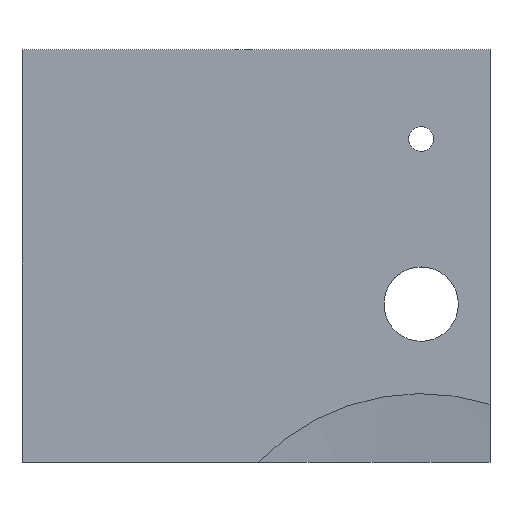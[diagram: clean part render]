
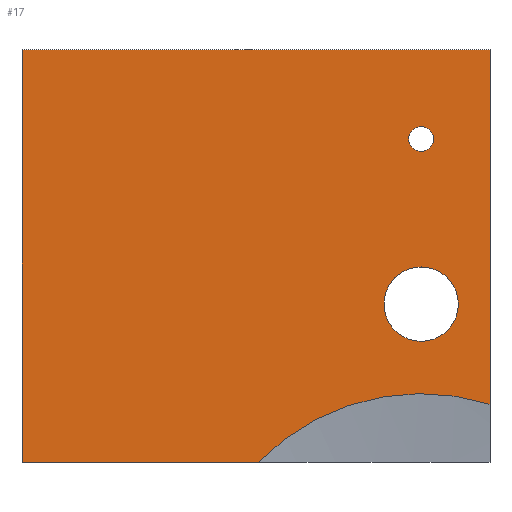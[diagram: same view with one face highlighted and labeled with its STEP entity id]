
A CAD part, top view. The second image highlights one B-rep face of the part: STEP entity #17.
In plain terms, the highlighted planar face has unit normal (0, 0, 1).
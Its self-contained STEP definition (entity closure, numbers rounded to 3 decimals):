
#17 = ADVANCED_FACE('',(#18,#158,#193),#33,.T.);
#18 = FACE_BOUND('',#19,.T.);
#19 = EDGE_LOOP('',(#20,#56,#82,#108,#134));
#20 = ORIENTED_EDGE('',*,*,#21,.F.);
#21 = EDGE_CURVE('',#22,#24,#26,.T.);
#22 = VERTEX_POINT('',#23);
#23 = CARTESIAN_POINT('',(5.,-27.276,13.5));
#24 = VERTEX_POINT('',#25);
#25 = CARTESIAN_POINT('',(-11.832,-31.5,13.5));
#26 = SURFACE_CURVE('',#27,(#32,#44),.PCURVE_S1.);
#27 = CIRCLE('',#28,16.5);
#28 = AXIS2_PLACEMENT_3D('',#29,#30,#31);
#29 = CARTESIAN_POINT('',(0.,-43.,13.5));
#30 = DIRECTION('',(0.,0.,1.));
#31 = DIRECTION('',(1.,0.,-0.));
#32 = PCURVE('',#33,#38);
#33 = PLANE('',#34);
#34 = AXIS2_PLACEMENT_3D('',#35,#36,#37);
#35 = CARTESIAN_POINT('',(-44.,-68.,13.5));
#36 = DIRECTION('',(0.,0.,1.));
#37 = DIRECTION('',(1.,0.,-0.));
#38 = DEFINITIONAL_REPRESENTATION('',(#39),#43);
#39 = CIRCLE('',#40,16.5);
#40 = AXIS2_PLACEMENT_2D('',#41,#42);
#41 = CARTESIAN_POINT('',(44.,25.));
#42 = DIRECTION('',(1.,0.));
#43 = ( GEOMETRIC_REPRESENTATION_CONTEXT(2) 
PARAMETRIC_REPRESENTATION_CONTEXT() REPRESENTATION_CONTEXT('2D SPACE',''
  ) );
#44 = PCURVE('',#45,#50);
#45 = SPHERICAL_SURFACE('',#46,124.3);
#46 = AXIS2_PLACEMENT_3D('',#47,#48,#49);
#47 = CARTESIAN_POINT('',(0.,-43.,136.7));
#48 = DIRECTION('',(0.,0.,1.));
#49 = DIRECTION('',(1.,0.,-0.));
#50 = DEFINITIONAL_REPRESENTATION('',(#51),#55);
#51 = LINE('',#52,#53);
#52 = CARTESIAN_POINT('',(0.,-1.438));
#53 = VECTOR('',#54,1.);
#54 = DIRECTION('',(1.,0.));
#55 = ( GEOMETRIC_REPRESENTATION_CONTEXT(2) 
PARAMETRIC_REPRESENTATION_CONTEXT() REPRESENTATION_CONTEXT('2D SPACE',''
  ) );
#56 = ORIENTED_EDGE('',*,*,#57,.T.);
#57 = EDGE_CURVE('',#22,#58,#60,.T.);
#58 = VERTEX_POINT('',#59);
#59 = CARTESIAN_POINT('',(5.,-1.5,13.5));
#60 = SURFACE_CURVE('',#61,(#65,#71),.PCURVE_S1.);
#61 = LINE('',#62,#63);
#62 = CARTESIAN_POINT('',(5.,-49.75,13.5));
#63 = VECTOR('',#64,1.);
#64 = DIRECTION('',(0.,1.,0.));
#65 = PCURVE('',#33,#66);
#66 = DEFINITIONAL_REPRESENTATION('',(#67),#70);
#67 = B_SPLINE_CURVE_WITH_KNOTS('',1,(#68,#69),.UNSPECIFIED.,.F.,.F.,(2,
    2),(18.25,48.25),.PIECEWISE_BEZIER_KNOTS.);
#68 = CARTESIAN_POINT('',(49.,36.5));
#69 = CARTESIAN_POINT('',(49.,66.5));
#70 = ( GEOMETRIC_REPRESENTATION_CONTEXT(2) 
PARAMETRIC_REPRESENTATION_CONTEXT() REPRESENTATION_CONTEXT('2D SPACE',''
  ) );
#71 = PCURVE('',#72,#77);
#72 = PLANE('',#73);
#73 = AXIS2_PLACEMENT_3D('',#74,#75,#76);
#74 = CARTESIAN_POINT('',(5.,-31.5,10.));
#75 = DIRECTION('',(1.,0.,0.));
#76 = DIRECTION('',(0.,0.,1.));
#77 = DEFINITIONAL_REPRESENTATION('',(#78),#81);
#78 = B_SPLINE_CURVE_WITH_KNOTS('',1,(#79,#80),.UNSPECIFIED.,.F.,.F.,(2,
    2),(18.25,48.25),.PIECEWISE_BEZIER_KNOTS.);
#79 = CARTESIAN_POINT('',(3.5,0.));
#80 = CARTESIAN_POINT('',(3.5,-30.));
#81 = ( GEOMETRIC_REPRESENTATION_CONTEXT(2) 
PARAMETRIC_REPRESENTATION_CONTEXT() REPRESENTATION_CONTEXT('2D SPACE',''
  ) );
#82 = ORIENTED_EDGE('',*,*,#83,.T.);
#83 = EDGE_CURVE('',#58,#84,#86,.T.);
#84 = VERTEX_POINT('',#85);
#85 = CARTESIAN_POINT('',(-29.,-1.5,13.5));
#86 = SURFACE_CURVE('',#87,(#91,#97),.PCURVE_S1.);
#87 = LINE('',#88,#89);
#88 = CARTESIAN_POINT('',(-36.5,-1.5,13.5));
#89 = VECTOR('',#90,1.);
#90 = DIRECTION('',(-1.,0.,0.));
#91 = PCURVE('',#33,#92);
#92 = DEFINITIONAL_REPRESENTATION('',(#93),#96);
#93 = B_SPLINE_CURVE_WITH_KNOTS('',1,(#94,#95),.UNSPECIFIED.,.F.,.F.,(2,
    2),(-41.5,-7.5),.PIECEWISE_BEZIER_KNOTS.);
#94 = CARTESIAN_POINT('',(49.,66.5));
#95 = CARTESIAN_POINT('',(15.,66.5));
#96 = ( GEOMETRIC_REPRESENTATION_CONTEXT(2) 
PARAMETRIC_REPRESENTATION_CONTEXT() REPRESENTATION_CONTEXT('2D SPACE',''
  ) );
#97 = PCURVE('',#98,#103);
#98 = PLANE('',#99);
#99 = AXIS2_PLACEMENT_3D('',#100,#101,#102);
#100 = CARTESIAN_POINT('',(-29.,-1.5,10.));
#101 = DIRECTION('',(0.,1.,0.));
#102 = DIRECTION('',(0.,0.,1.));
#103 = DEFINITIONAL_REPRESENTATION('',(#104),#107);
#104 = B_SPLINE_CURVE_WITH_KNOTS('',1,(#105,#106),.UNSPECIFIED.,.F.,.F.,
  (2,2),(-41.5,-7.5),.PIECEWISE_BEZIER_KNOTS.);
#105 = CARTESIAN_POINT('',(3.5,34.));
#106 = CARTESIAN_POINT('',(3.5,0.));
#107 = ( GEOMETRIC_REPRESENTATION_CONTEXT(2) 
PARAMETRIC_REPRESENTATION_CONTEXT() REPRESENTATION_CONTEXT('2D SPACE',''
  ) );
#108 = ORIENTED_EDGE('',*,*,#109,.F.);
#109 = EDGE_CURVE('',#110,#84,#112,.T.);
#110 = VERTEX_POINT('',#111);
#111 = CARTESIAN_POINT('',(-29.,-31.5,13.5));
#112 = SURFACE_CURVE('',#113,(#117,#123),.PCURVE_S1.);
#113 = LINE('',#114,#115);
#114 = CARTESIAN_POINT('',(-29.,-49.75,13.5));
#115 = VECTOR('',#116,1.);
#116 = DIRECTION('',(0.,1.,0.));
#117 = PCURVE('',#33,#118);
#118 = DEFINITIONAL_REPRESENTATION('',(#119),#122);
#119 = B_SPLINE_CURVE_WITH_KNOTS('',1,(#120,#121),.UNSPECIFIED.,.F.,.F.,
  (2,2),(18.25,48.25),.PIECEWISE_BEZIER_KNOTS.);
#120 = CARTESIAN_POINT('',(15.,36.5));
#121 = CARTESIAN_POINT('',(15.,66.5));
#122 = ( GEOMETRIC_REPRESENTATION_CONTEXT(2) 
PARAMETRIC_REPRESENTATION_CONTEXT() REPRESENTATION_CONTEXT('2D SPACE',''
  ) );
#123 = PCURVE('',#124,#129);
#124 = PLANE('',#125);
#125 = AXIS2_PLACEMENT_3D('',#126,#127,#128);
#126 = CARTESIAN_POINT('',(-29.,-31.5,10.));
#127 = DIRECTION('',(1.,0.,0.));
#128 = DIRECTION('',(0.,0.,1.));
#129 = DEFINITIONAL_REPRESENTATION('',(#130),#133);
#130 = B_SPLINE_CURVE_WITH_KNOTS('',1,(#131,#132),.UNSPECIFIED.,.F.,.F.,
  (2,2),(18.25,48.25),.PIECEWISE_BEZIER_KNOTS.);
#131 = CARTESIAN_POINT('',(3.5,0.));
#132 = CARTESIAN_POINT('',(3.5,-30.));
#133 = ( GEOMETRIC_REPRESENTATION_CONTEXT(2) 
PARAMETRIC_REPRESENTATION_CONTEXT() REPRESENTATION_CONTEXT('2D SPACE',''
  ) );
#134 = ORIENTED_EDGE('',*,*,#135,.F.);
#135 = EDGE_CURVE('',#24,#110,#136,.T.);
#136 = SURFACE_CURVE('',#137,(#141,#147),.PCURVE_S1.);
#137 = LINE('',#138,#139);
#138 = CARTESIAN_POINT('',(-36.5,-31.5,13.5));
#139 = VECTOR('',#140,1.);
#140 = DIRECTION('',(-1.,0.,0.));
#141 = PCURVE('',#33,#142);
#142 = DEFINITIONAL_REPRESENTATION('',(#143),#146);
#143 = B_SPLINE_CURVE_WITH_KNOTS('',1,(#144,#145),.UNSPECIFIED.,.F.,.F.,
  (2,2),(-41.5,-7.5),.PIECEWISE_BEZIER_KNOTS.);
#144 = CARTESIAN_POINT('',(49.,36.5));
#145 = CARTESIAN_POINT('',(15.,36.5));
#146 = ( GEOMETRIC_REPRESENTATION_CONTEXT(2) 
PARAMETRIC_REPRESENTATION_CONTEXT() REPRESENTATION_CONTEXT('2D SPACE',''
  ) );
#147 = PCURVE('',#148,#153);
#148 = PLANE('',#149);
#149 = AXIS2_PLACEMENT_3D('',#150,#151,#152);
#150 = CARTESIAN_POINT('',(-29.,-31.5,10.));
#151 = DIRECTION('',(0.,1.,0.));
#152 = DIRECTION('',(0.,0.,1.));
#153 = DEFINITIONAL_REPRESENTATION('',(#154),#157);
#154 = B_SPLINE_CURVE_WITH_KNOTS('',1,(#155,#156),.UNSPECIFIED.,.F.,.F.,
  (2,2),(-41.5,-7.5),.PIECEWISE_BEZIER_KNOTS.);
#155 = CARTESIAN_POINT('',(3.5,34.));
#156 = CARTESIAN_POINT('',(3.5,0.));
#157 = ( GEOMETRIC_REPRESENTATION_CONTEXT(2) 
PARAMETRIC_REPRESENTATION_CONTEXT() REPRESENTATION_CONTEXT('2D SPACE',''
  ) );
#158 = FACE_BOUND('',#159,.T.);
#159 = EDGE_LOOP('',(#160));
#160 = ORIENTED_EDGE('',*,*,#161,.T.);
#161 = EDGE_CURVE('',#162,#162,#164,.T.);
#162 = VERTEX_POINT('',#163);
#163 = CARTESIAN_POINT('',(2.7,-20.,13.5));
#164 = SURFACE_CURVE('',#165,(#170,#181),.PCURVE_S1.);
#165 = CIRCLE('',#166,2.7);
#166 = AXIS2_PLACEMENT_3D('',#167,#168,#169);
#167 = CARTESIAN_POINT('',(0.,-20.,13.5));
#168 = DIRECTION('',(0.,0.,-1.));
#169 = DIRECTION('',(1.,0.,0.));
#170 = PCURVE('',#33,#171);
#171 = DEFINITIONAL_REPRESENTATION('',(#172),#180);
#172 = ( BOUNDED_CURVE() B_SPLINE_CURVE(2,(#173,#174,#175,#176,#177,#178
,#179),.UNSPECIFIED.,.T.,.F.) B_SPLINE_CURVE_WITH_KNOTS((1,2,2,2,2,1),(
    -2.094,0.,2.094,4.189,6.283,
8.378),.UNSPECIFIED.) CURVE() GEOMETRIC_REPRESENTATION_ITEM() 
RATIONAL_B_SPLINE_CURVE((1.,0.5,1.,0.5,1.,0.5,1.)) REPRESENTATION_ITEM(
  '') );
#173 = CARTESIAN_POINT('',(46.7,48.));
#174 = CARTESIAN_POINT('',(46.7,43.323));
#175 = CARTESIAN_POINT('',(42.65,45.662));
#176 = CARTESIAN_POINT('',(38.6,48.));
#177 = CARTESIAN_POINT('',(42.65,50.338));
#178 = CARTESIAN_POINT('',(46.7,52.677));
#179 = CARTESIAN_POINT('',(46.7,48.));
#180 = ( GEOMETRIC_REPRESENTATION_CONTEXT(2) 
PARAMETRIC_REPRESENTATION_CONTEXT() REPRESENTATION_CONTEXT('2D SPACE',''
  ) );
#181 = PCURVE('',#182,#187);
#182 = CYLINDRICAL_SURFACE('',#183,2.7);
#183 = AXIS2_PLACEMENT_3D('',#184,#185,#186);
#184 = CARTESIAN_POINT('',(0.,-20.,2.));
#185 = DIRECTION('',(-0.,-0.,-1.));
#186 = DIRECTION('',(1.,0.,0.));
#187 = DEFINITIONAL_REPRESENTATION('',(#188),#192);
#188 = LINE('',#189,#190);
#189 = CARTESIAN_POINT('',(0.,-11.5));
#190 = VECTOR('',#191,1.);
#191 = DIRECTION('',(1.,-0.));
#192 = ( GEOMETRIC_REPRESENTATION_CONTEXT(2) 
PARAMETRIC_REPRESENTATION_CONTEXT() REPRESENTATION_CONTEXT('2D SPACE',''
  ) );
#193 = FACE_BOUND('',#194,.T.);
#194 = EDGE_LOOP('',(#195));
#195 = ORIENTED_EDGE('',*,*,#196,.T.);
#196 = EDGE_CURVE('',#197,#197,#199,.T.);
#197 = VERTEX_POINT('',#198);
#198 = CARTESIAN_POINT('',(0.9,-8.,13.5));
#199 = SURFACE_CURVE('',#200,(#205,#216),.PCURVE_S1.);
#200 = CIRCLE('',#201,0.9);
#201 = AXIS2_PLACEMENT_3D('',#202,#203,#204);
#202 = CARTESIAN_POINT('',(0.,-8.,13.5));
#203 = DIRECTION('',(0.,0.,-1.));
#204 = DIRECTION('',(1.,0.,0.));
#205 = PCURVE('',#33,#206);
#206 = DEFINITIONAL_REPRESENTATION('',(#207),#215);
#207 = ( BOUNDED_CURVE() B_SPLINE_CURVE(2,(#208,#209,#210,#211,#212,#213
,#214),.UNSPECIFIED.,.T.,.F.) B_SPLINE_CURVE_WITH_KNOTS((1,2,2,2,2,1),(
    -2.094,0.,2.094,4.189,6.283,
8.378),.UNSPECIFIED.) CURVE() GEOMETRIC_REPRESENTATION_ITEM() 
RATIONAL_B_SPLINE_CURVE((1.,0.5,1.,0.5,1.,0.5,1.)) REPRESENTATION_ITEM(
  '') );
#208 = CARTESIAN_POINT('',(44.9,60.));
#209 = CARTESIAN_POINT('',(44.9,58.441));
#210 = CARTESIAN_POINT('',(43.55,59.221));
#211 = CARTESIAN_POINT('',(42.2,60.));
#212 = CARTESIAN_POINT('',(43.55,60.779));
#213 = CARTESIAN_POINT('',(44.9,61.559));
#214 = CARTESIAN_POINT('',(44.9,60.));
#215 = ( GEOMETRIC_REPRESENTATION_CONTEXT(2) 
PARAMETRIC_REPRESENTATION_CONTEXT() REPRESENTATION_CONTEXT('2D SPACE',''
  ) );
#216 = PCURVE('',#217,#222);
#217 = CYLINDRICAL_SURFACE('',#218,0.9);
#218 = AXIS2_PLACEMENT_3D('',#219,#220,#221);
#219 = CARTESIAN_POINT('',(0.,-8.,12.));
#220 = DIRECTION('',(-0.,-0.,-1.));
#221 = DIRECTION('',(1.,0.,0.));
#222 = DEFINITIONAL_REPRESENTATION('',(#223),#227);
#223 = LINE('',#224,#225);
#224 = CARTESIAN_POINT('',(0.,-1.5));
#225 = VECTOR('',#226,1.);
#226 = DIRECTION('',(1.,-0.));
#227 = ( GEOMETRIC_REPRESENTATION_CONTEXT(2) 
PARAMETRIC_REPRESENTATION_CONTEXT() REPRESENTATION_CONTEXT('2D SPACE',''
  ) );
